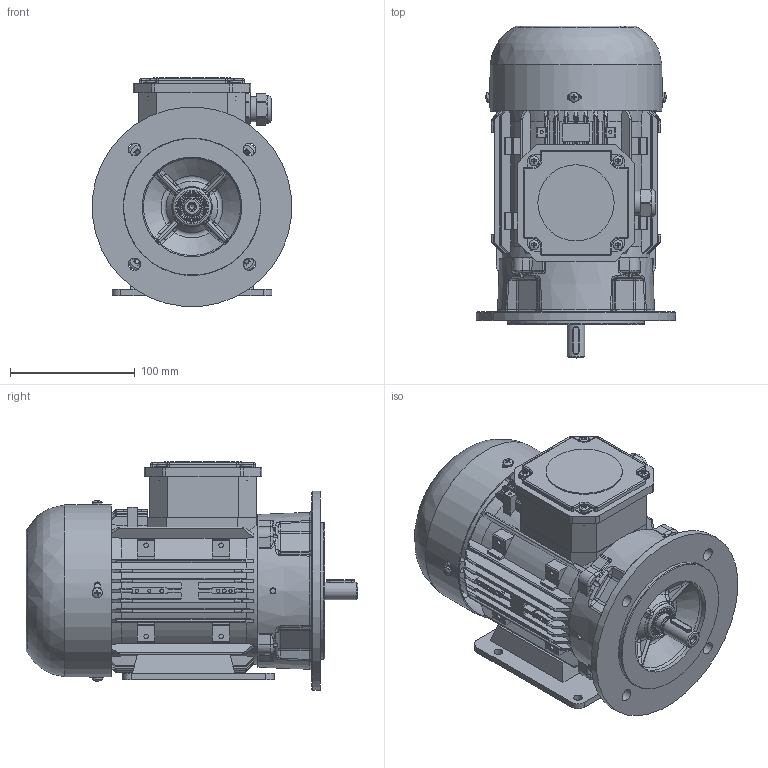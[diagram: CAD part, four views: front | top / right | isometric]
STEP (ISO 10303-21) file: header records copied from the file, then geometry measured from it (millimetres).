
FILE_DESCRIPTION(/* description */ (''),/* implementation_level */ '2;1');
FILE_NAME(/* name */ 'OUTLOOK VIEW QH71 PA B35 FF130 SPL.stp',/* time_stamp */ '2021-09-21T11:46:46+03:00',/* author */ (''),/* organization */ (''),/* preprocessor_version */ 'ST-DEVELOPER v16',/* originating_system */ 'SIEMENS PLM Software NX 11.0',/* authorisation */ '');
FILE_SCHEMA (('AUTOMOTIVE_DESIGN { 1 0 10303 214 3 1 1 1 }'));
Products named in the file (1): 260652D491E0rvr3
Bounding box: 159.4 x 265.66 x 183.2 mm (x, y, z)
Volume: 837796.7 mm3; surface area: 490408.7 mm2
Topology: 50 solids, 56 shells, 3087 faces, 8184 edges, 5206 vertices
Faces by surface type: plane 1263, cylinder 843, bspline 493, cone 293, torus 132, sphere 44, extrusion 19
Full cylindrical faces by diameter (mm): 1.7 x2, 2.5 x12, 3 x4, 3.15 x1, 3.3 x9, 3.65 x12, 3.7 x3, 4 x9, 4.2 x5, 4.5 x4, 4.6 x2, 4.65 x4, 4.8 x4, 5 x4, 5.1 x1, 5.2 x4, 5.3 x1, 5.5 x1, 7 x4, 8 x9, 10 x4, 13 x1, 13.4 x1, 14 x2, 14.3 x1, 14.4 x2, 15 x6, 15.2 x1, 15.5 x1, 16.9 x1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
Entity records: 106443 total; most frequent: CARTESIAN_POINT 34147, ORIENTED_EDGE 15212, DIRECTION 13582, EDGE_CURVE 7606, AXIS2_PLACEMENT_3D 5166, VERTEX_POINT 5084, EDGE_LOOP 3730, VECTOR 3250
